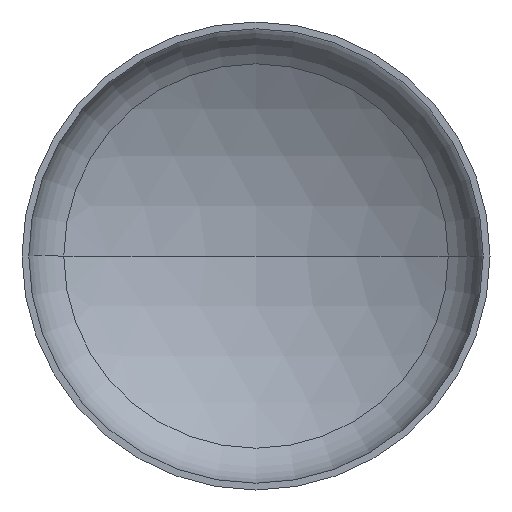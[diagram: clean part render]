
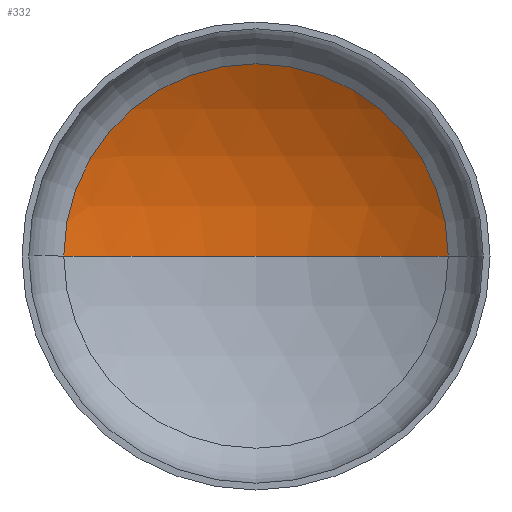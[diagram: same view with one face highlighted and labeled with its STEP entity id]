
A CAD part, front view. The second image highlights one B-rep face of the part: STEP entity #332.
In plain terms, the highlighted spherical face has radius 6400 mm.
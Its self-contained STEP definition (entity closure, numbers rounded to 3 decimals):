
#22 = AXIS2_PLACEMENT_3D ( 'NONE', #312, #404, #336 ) ;
#29 = VERTEX_POINT ( 'NONE', #187 ) ;
#42 = AXIS2_PLACEMENT_3D ( 'NONE', #108, #305, #154 ) ;
#43 = AXIS2_PLACEMENT_3D ( 'NONE', #375, #248, #398 ) ;
#45 = AXIS2_PLACEMENT_3D ( 'NONE', #287, #60, #195 ) ;
#60 = DIRECTION ( 'NONE',  ( 0., -1., 0. ) ) ;
#66 = CIRCLE ( 'NONE', #45, 3285.416 ) ;
#81 = EDGE_CURVE ( 'NONE', #322, #224, #66, .T. ) ;
#84 = EDGE_CURVE ( 'NONE', #29, #322, #370, .T. ) ;
#87 = EDGE_CURVE ( 'NONE', #29, #224, #304, .T. ) ;
#106 = ORIENTED_EDGE ( 'NONE', *, *, #81, .T. ) ;
#108 = CARTESIAN_POINT ( 'NONE',  ( 0., -4361.799, 0. ) ) ;
#112 = ORIENTED_EDGE ( 'NONE', *, *, #84, .T. ) ;
#154 = DIRECTION ( 'NONE',  ( 1., 0., 0. ) ) ;
#174 = ORIENTED_EDGE ( 'NONE', *, *, #87, .F. ) ;
#180 = EDGE_LOOP ( 'NONE', ( #174, #112, #106 ) ) ;
#187 = CARTESIAN_POINT ( 'NONE',  ( 0., 2038.201, 0. ) ) ;
#195 = DIRECTION ( 'NONE',  ( 1., 0., 0. ) ) ;
#203 = CARTESIAN_POINT ( 'NONE',  ( -3285.416, 1130.563, 0. ) ) ;
#224 = VERTEX_POINT ( 'NONE', #203 ) ;
#227 = FACE_OUTER_BOUND ( 'NONE', #180, .T. ) ;
#248 = DIRECTION ( 'NONE',  ( 0., 0., -1. ) ) ;
#286 = SPHERICAL_SURFACE ( 'NONE', #22, 6400. ) ;
#287 = CARTESIAN_POINT ( 'NONE',  ( 0., 1130.563, 0. ) ) ;
#293 = CARTESIAN_POINT ( 'NONE',  ( 3285.416, 1130.563, 0. ) ) ;
#304 = CIRCLE ( 'NONE', #42, 6400. ) ;
#305 = DIRECTION ( 'NONE',  ( 0., 0., 1. ) ) ;
#312 = CARTESIAN_POINT ( 'NONE',  ( 0., -4361.799, 0. ) ) ;
#322 = VERTEX_POINT ( 'NONE', #293 ) ;
#332 = ADVANCED_FACE ( 'NONE', ( #227 ), #286, .F. ) ;
#336 = DIRECTION ( 'NONE',  ( -1., 0., 0. ) ) ;
#370 = CIRCLE ( 'NONE', #43, 6400. ) ;
#375 = CARTESIAN_POINT ( 'NONE',  ( 0., -4361.799, 0. ) ) ;
#398 = DIRECTION ( 'NONE',  ( -1., 0., 0. ) ) ;
#404 = DIRECTION ( 'NONE',  ( 0., 0., -1. ) ) ;
